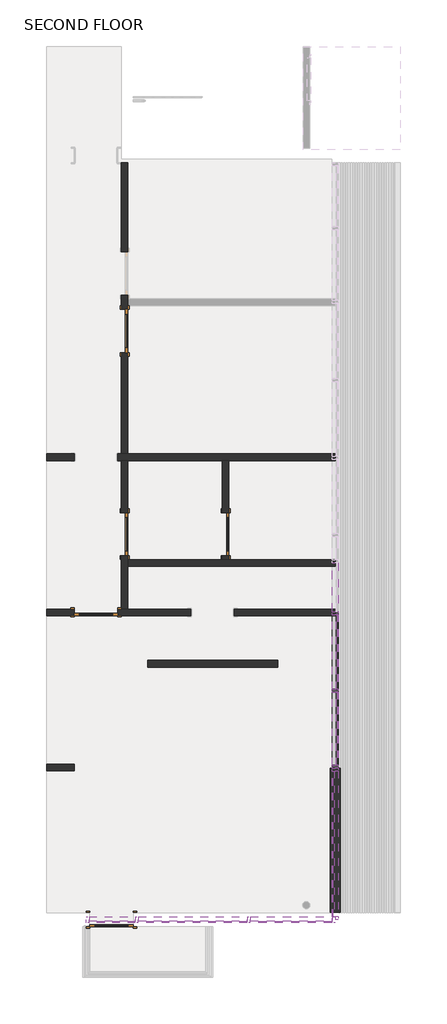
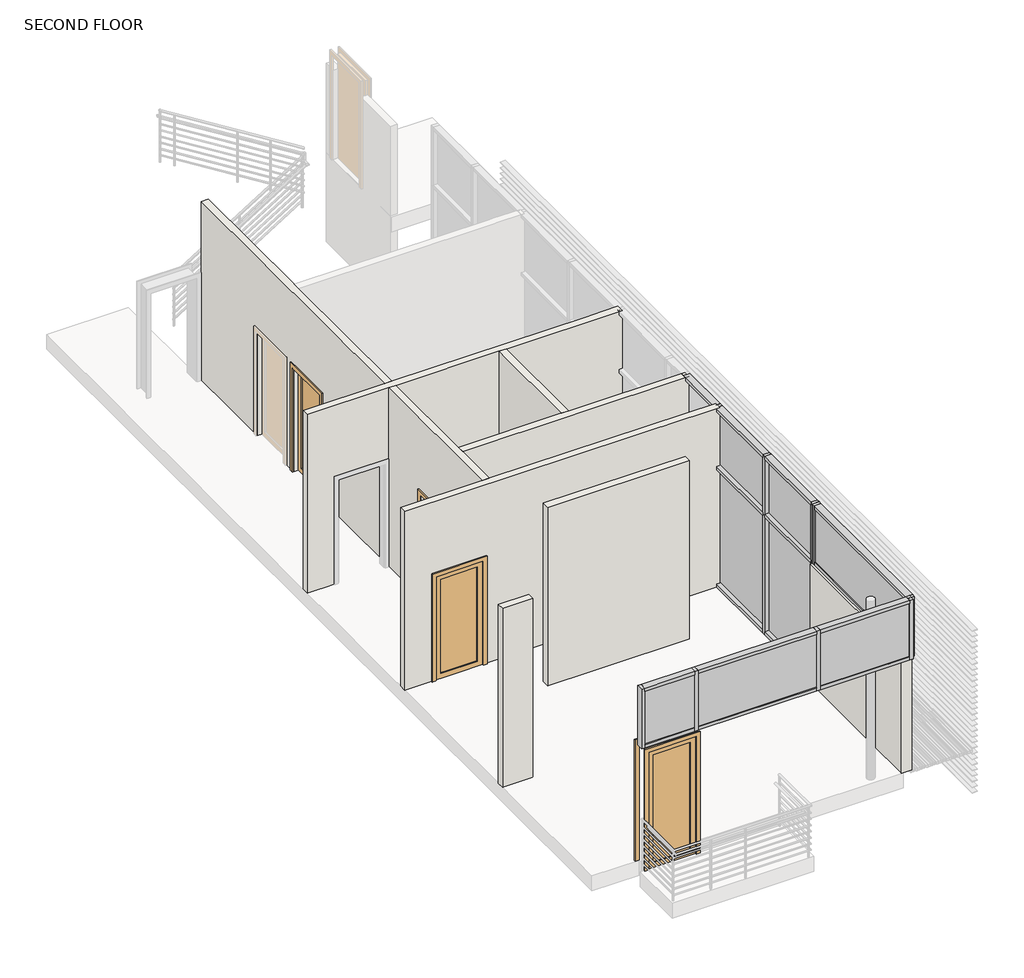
# One storey, part 1 of 2: 28 members, 9 walls, 8 plates, 5 doors.
"""IFC4 building model written with IfcOpenShell, lengths in millimetres."""

import ifcopenshell
import ifcopenshell.guid

model = None  # the IFC model being written
_history = None  # IfcOwnerHistory: only IFC2X3 demands one
_inside = {}  # id of a spatial element -> (the spatial element, [elements in it])
_under = {}  # id of a project, library or spatial element -> (it, [spatial elements below it])
_declared = {}  # id of a project -> (the project, [libraries it declares])
_typed = {}  # id of a type object -> (the type object, [elements of that type])
_made_of = {}  # id of a material, layer set ... -> (it, [elements and type objects made of it])


def new_model(schema):
    """Start an empty IFC model of exactly this schema.

    Asked for "IFC4X3", IfcOpenShell would pick the latest addendum, in which some entities
    have other attributes; the version numbers below select the first issue.
    IFC2X3 requires an IfcOwnerHistory on every rooted entity: one is made here for all.
    """
    global model, _history
    if schema == "IFC4X3":
        model = ifcopenshell.file(schema_version=(4, 3, 0, 0))
    else:
        model = ifcopenshell.file(schema=schema)
    _inside.clear()
    _under.clear()
    _declared.clear()
    _typed.clear()
    _made_of.clear()
    _history = None
    if model.schema == "IFC2X3":
        org = make("IfcOrganization", Name="unknown")
        user = make(
            "IfcPersonAndOrganization",
            ThePerson=make("IfcPerson", FamilyName="unknown"),
            TheOrganization=org,
        )
        app = make(
            "IfcApplication",
            ApplicationDeveloper=org,
            Version="unknown",
            ApplicationFullName="unknown",
            ApplicationIdentifier="unknown",
        )
        _history = make(
            "IfcOwnerHistory",
            OwningUser=user,
            OwningApplication=app,
            ChangeAction="ADDED",
            CreationDate=0,
        )
    return model


def make(cls, **values):
    """One entity of the class cls with the attributes given. An attribute that is None is left unset."""
    return model.create_entity(
        cls, **{name: value for name, value in values.items() if value is not None}
    )


def rooted(cls, **values):
    """An entity with a GlobalId (a new one), such as an element, a storey or a relation."""
    return make(cls, GlobalId=ifcopenshell.guid.new(), OwnerHistory=_history, **values)


def si_unit(unit_type, name, prefix=None):
    """IfcSIUnit, for example si_unit("LENGTHUNIT", "METRE", prefix="MILLI")."""
    return make("IfcSIUnit", UnitType=unit_type, Prefix=prefix, Name=name)


def assignment(units):
    """IfcUnitAssignment: the units of a project."""
    return None if units is None else make("IfcUnitAssignment", Units=units)


def point(xyz):
    """IfcCartesianPoint."""
    return None if xyz is None else make("IfcCartesianPoint", Coordinates=xyz)


def direction(xyz):
    """IfcDirection."""
    return None if xyz is None else make("IfcDirection", DirectionRatios=xyz)


def frame(location, z_axis=None, x_axis=None):
    """IfcAxis2Placement3D, a coordinate frame: its origin and axes. An axis left out is left unset."""
    return make(
        "IfcAxis2Placement3D",
        Location=point(location),
        Axis=direction(z_axis),
        RefDirection=direction(x_axis),
    )


def origin():
    """The frame at (0, 0, 0) with its axes left unset."""
    return frame((0.0, 0.0, 0.0))


def origin_with_axes():
    """The frame at (0, 0, 0) with the z axis (0, 0, 1) and the x axis (1, 0, 0) written out."""
    return frame((0.0, 0.0, 0.0), z_axis=(0.0, 0.0, 1.0), x_axis=(1.0, 0.0, 0.0))


def place(relative_to, where):
    """IfcLocalPlacement: puts the frame where relative to a parent placement (None: the world)."""
    return make(
        "IfcLocalPlacement", PlacementRelTo=relative_to, RelativePlacement=where
    )


def context(
    kind, dimensions, precision=None, world=None, true_north=None, identifier=None
):
    """IfcGeometricRepresentationContext, for example the 3D "Model" context."""
    return make(
        "IfcGeometricRepresentationContext",
        ContextIdentifier=identifier,
        ContextType=kind,
        CoordinateSpaceDimension=dimensions,
        Precision=precision,
        WorldCoordinateSystem=world,
        TrueNorth=true_north,
    )


def project(units=None, contexts=None):
    """IfcProject with its units and contexts."""
    return rooted(
        "IfcProject",
        Name="project",
        RepresentationContexts=contexts,
        UnitsInContext=assignment(units),
    )


def spatial(cls, under=None, at=None, **own):
    """A site, building, storey or space (cls), placed at a placement, below another one or the project."""
    s = rooted(cls, ObjectPlacement=at, **own)
    if under is not None:
        _under.setdefault(under.id(), (under, []))[1].append(s)
    return s


def polyline(points):
    """IfcPolyline through the points."""
    return make("IfcPolyline", Points=[point(p) for p in points])


def outline(outer, holes=None, kind="AREA"):
    """IfcArbitraryClosedProfileDef: a profile drawn as a closed curve; with holes, ...WithVoids."""
    if holes is None:
        return make("IfcArbitraryClosedProfileDef", ProfileType=kind, OuterCurve=outer)
    return make(
        "IfcArbitraryProfileDefWithVoids",
        ProfileType=kind,
        OuterCurve=outer,
        InnerCurves=holes,
    )


def extrude(swept, where, along, depth):
    """IfcExtrudedAreaSolid: the profile swept, set in the frame where, extruded along a direction by depth."""
    return make(
        "IfcExtrudedAreaSolid",
        SweptArea=swept,
        Position=where,
        ExtrudedDirection=direction(along),
        Depth=depth,
    )


def faces_of(points, faces, orient=None, outer=None):
    """IfcFace entities. A face is a list of loops; a loop is a list of indices into points, from 0.

    orient and outer hold one flag for each loop. By default every Orientation is true, the
    first loop of a face is its IfcFaceOuterBound and the others are IfcFaceBound.
    """
    made = []
    for i, loops in enumerate(faces):
        bounds = []
        for j, loop in enumerate(loops):
            is_outer = j == 0 if outer is None else outer[i][j]
            bounds.append(
                make(
                    "IfcFaceOuterBound" if is_outer else "IfcFaceBound",
                    Bound=make("IfcPolyLoop", Polygon=[points[k] for k in loop]),
                    Orientation=True if orient is None else orient[i][j],
                )
            )
        made.append(make("IfcFace", Bounds=bounds))
    return made


def faceted_brep(points, faces, orient=None, outer=None, voids=None):
    """IfcFacetedBrep: a solid bounded by flat faces; with voids (closed shells), ...WithVoids."""
    shared = [point(p) for p in points]
    hull = make("IfcClosedShell", CfsFaces=faces_of(shared, faces, orient, outer))
    if voids is None:
        return make("IfcFacetedBrep", Outer=hull)
    return make(
        "IfcFacetedBrepWithVoids",
        Outer=hull,
        Voids=[
            make(cls, CfsFaces=faces_of(shared, fs, o, b)) for cls, fs, o, b in voids
        ],
    )


def shape(context_of_items, identifier, shape_type, items):
    """IfcShapeRepresentation: the items that make up one representation, for example the "Body"."""
    return make(
        "IfcShapeRepresentation",
        ContextOfItems=context_of_items,
        RepresentationIdentifier=identifier,
        RepresentationType=shape_type,
        Items=items,
    )


def source(mapping_origin, context_of_items, identifier, shape_type, items):
    """IfcRepresentationMap: a shape defined once, which mapped items show again and again."""
    return make(
        "IfcRepresentationMap",
        MappingOrigin=mapping_origin,
        MappedRepresentation=shape(context_of_items, identifier, shape_type, items),
    )


def transform(
    local_origin,
    x_axis=None,
    y_axis=None,
    z_axis=None,
    scale=None,
    scale2=None,
    scale3=None,
    uniform=True,
):
    """IfcCartesianTransformationOperator3D, or its non-uniform kind. x_axis, y_axis, z_axis: its Axis1, 2, 3."""
    if uniform:
        return make(
            "IfcCartesianTransformationOperator3D",
            Axis1=direction(x_axis),
            Axis2=direction(y_axis),
            LocalOrigin=point(local_origin),
            Scale=scale,
            Axis3=direction(z_axis),
        )
    return make(
        "IfcCartesianTransformationOperator3DnonUniform",
        Axis1=direction(x_axis),
        Axis2=direction(y_axis),
        LocalOrigin=point(local_origin),
        Scale=scale,
        Axis3=direction(z_axis),
        Scale2=scale2,
        Scale3=scale3,
    )


def mapped(mapping_source, mapping_target):
    """IfcMappedItem: shows the shape of a source again, moved by a transform."""
    return make(
        "IfcMappedItem", MappingSource=mapping_source, MappingTarget=mapping_target
    )


def made_of(thing, what):
    """Note that an element or type object is made of a material, layer set ...; save() writes the relation."""
    if what is not None:
        _made_of.setdefault(what.id(), (what, []))[1].append(thing)
    return thing


def element(
    cls,
    number,
    at=None,
    inside=None,
    cuts=None,
    type_object=None,
    material=None,
    context=None,
    identifier="Body",
    shape_type=None,
    held_by="IfcProductDefinitionShape",
    body=None,
    shapes=None,
    **own,
):
    """One element of the class cls, such as IfcWall. Its Tag is "e" and its number.

    at: its placement. inside: the storey or other place that contains it. cuts: it is an
    opening in that element (IfcRelVoidsElement). A single representation is given by context,
    identifier, shape_type and body (its items); several are given by shapes. held_by: the class
    of the entity that holds the representations. save() writes the other relations.
    """
    e = rooted(cls, Tag="e%d" % number, ObjectPlacement=at, **own)
    if body is not None:
        shapes = [shape(context, identifier, shape_type, body)]
    if shapes is not None:
        e.Representation = make(held_by, Representations=shapes)
    if inside is not None:
        _inside.setdefault(inside.id(), (inside, []))[1].append(e)
    if cuts is not None:
        rooted(
            "IfcRelVoidsElement", RelatingBuildingElement=cuts, RelatedOpeningElement=e
        )
    if type_object is not None:
        _typed.setdefault(type_object.id(), (type_object, []))[1].append(e)
    return made_of(e, material)


def aggregate(whole, parts):
    """IfcRelAggregates: a whole, such as a stair, and the parts it consists of."""
    return rooted("IfcRelAggregates", RelatingObject=whole, RelatedObjects=parts)


def save(model, path):
    """Write the relations noted so far, then the file.

    IfcRelAggregates (storeys below a building ...), IfcRelContainedInSpatialStructure (elements
    in a storey), IfcRelDefinesByType, IfcRelAssociatesMaterial and IfcRelDeclares: one each for
    every whole, place, type object, material and project.
    """
    for whole, parts in _under.values():
        aggregate(whole, parts)
    for where, things in _inside.values():
        rooted(
            "IfcRelContainedInSpatialStructure",
            RelatedElements=things,
            RelatingStructure=where,
        )
    for kind, things in _typed.values():
        rooted("IfcRelDefinesByType", RelatedObjects=things, RelatingType=kind)
    for what, things in _made_of.values():
        rooted("IfcRelAssociatesMaterial", RelatedObjects=things, RelatingMaterial=what)
    for by, libraries in _declared.values():
        rooted("IfcRelDeclares", RelatingContext=by, RelatedDefinitions=libraries)
    model.write(path)


def door_e49b49a8(model_context):
    return source(origin(), model_context, "Body", "SweptSolid", [
        extrude(outline(polyline([(2133.6, 457.2), (0.0, 457.2), (0.0, 533.4), (2209.8, 533.4), (2209.8, -533.4), (0.0, -533.4), (0.0, -457.2), (2133.6, -457.2), (2133.6, 457.2)])), frame((0.0, -95.25, 0.0), z_axis=(0.0, 1.0, 0.0), x_axis=(0.0, 0.0, 1.0)), (0.0, 0.0, 1.0), 25.4),
        extrude(outline(polyline([(2133.6, 457.2), (0.0, 457.2), (0.0, 533.4), (2209.8, 533.4), (2209.8, -533.4), (0.0, -533.4), (0.0, -457.2), (2133.6, -457.2), (2133.6, 457.2)])), frame((0.0, 69.85, 0.0), z_axis=(0.0, 1.0, 0.0), x_axis=(0.0, 0.0, 1.0)), (0.0, 0.0, 1.0), 25.4),
        extrude(outline(polyline([(355.6, 41.275), (-355.6, 41.275), (-355.6, 47.625), (355.6, 47.625), (355.6, 41.275)])), frame((0.0, 0.0, 101.6), z_axis=(0.0, 0.0, 1.0), x_axis=(1.0, 0.0, 0.0)), (0.0, 0.0, 1.0), 1930.4),
        extrude(outline(polyline([(2133.6, 457.2), (2133.6, -457.2), (0.0, -457.2), (0.0, 457.2), (2133.6, 457.2)]), holes=[polyline([(2032.0, -355.6), (2032.0, 355.6), (101.6, 355.6), (101.6, -355.6), (2032.0, -355.6)])]), frame((0.0, 19.05, 0.0), z_axis=(0.0, 1.0, 0.0), x_axis=(0.0, 0.0, 1.0)), (0.0, 0.0, 1.0), 50.8),
    ])


def door_4364fc02(model_context):
    return source(origin(), model_context, "Body", "SweptSolid", [
        extrude(outline(polyline([(2133.6, 457.2), (0.0, 457.2), (0.0, 533.4), (2209.8, 533.4), (2209.8, -533.4), (0.0, -533.4), (0.0, -457.2), (2133.6, -457.2), (2133.6, 457.2)])), frame((0.0, 69.85, 0.0), z_axis=(0.0, 1.0, 0.0), x_axis=(0.0, 0.0, 1.0)), (0.0, 0.0, 1.0), 25.4),
        extrude(outline(polyline([(2133.6, 457.2), (0.0, 457.2), (0.0, 533.4), (2209.8, 533.4), (2209.8, -533.4), (0.0, -533.4), (0.0, -457.2), (2133.6, -457.2), (2133.6, 457.2)])), frame((0.0, -95.25, 0.0), z_axis=(0.0, 1.0, 0.0), x_axis=(0.0, 0.0, 1.0)), (0.0, 0.0, 1.0), 25.4),
        extrude(outline(polyline([(355.6, -41.275), (355.6, -47.625), (-355.6, -47.625), (-355.6, -41.275), (355.6, -41.275)])), frame((0.0, 0.0, 101.6), z_axis=(0.0, 0.0, 1.0), x_axis=(1.0, 0.0, 0.0)), (0.0, 0.0, 1.0), 1930.4),
        extrude(outline(polyline([(2133.6, 457.2), (2133.6, -457.2), (0.0, -457.2), (0.0, 457.2), (2133.6, 457.2)]), holes=[polyline([(2032.0, -355.6), (2032.0, 355.6), (101.6, 355.6), (101.6, -355.6), (2032.0, -355.6)])]), frame((0.0, -69.85, 0.0), z_axis=(0.0, 1.0, 0.0), x_axis=(0.0, 0.0, 1.0)), (0.0, 0.0, 1.0), 50.8),
    ])


def single_glass_1_balcony_door_3d27845b(model_context):
    return source(origin(), model_context, "Body", "SweptSolid", [
        extrude(outline(polyline([(2413.0, 457.2), (0.0, 457.2), (0.0, 533.4), (2489.2, 533.4), (2489.2, -533.4), (0.0, -533.4), (0.0, -457.2), (2413.0, -457.2), (2413.0, 457.2)])), frame((0.0, -177.8, 0.0), z_axis=(0.0, 1.0, 0.0), x_axis=(0.0, 0.0, 1.0)), (0.0, 0.0, 1.0), 25.4),
        extrude(outline(polyline([(2413.0, 457.2), (0.0, 457.2), (0.0, 533.4), (2489.2, 533.4), (2489.2, -533.4), (0.0, -533.4), (0.0, -457.2), (2413.0, -457.2), (2413.0, 457.2)])), frame((0.0, 152.4, 0.0), z_axis=(0.0, 1.0, 0.0), x_axis=(0.0, 0.0, 1.0)), (0.0, 0.0, 1.0), 25.4),
        extrude(outline(polyline([(355.6, 123.825), (-355.6, 123.825), (-355.6, 130.175), (355.6, 130.175), (355.6, 123.825)])), frame((0.0, 0.0, 101.6), z_axis=(0.0, 0.0, 1.0), x_axis=(1.0, 0.0, 0.0)), (0.0, 0.0, 1.0), 2209.8),
        extrude(outline(polyline([(2413.0, 457.2), (2413.0, -457.2), (0.0, -457.2), (0.0, 457.2), (2413.0, 457.2)]), holes=[polyline([(2311.4, -355.6), (2311.4, 355.6), (101.6, 355.6), (101.6, -355.6), (2311.4, -355.6)])]), frame((0.0, 101.6, 0.0), z_axis=(0.0, 1.0, 0.0), x_axis=(0.0, 0.0, 1.0)), (0.0, 0.0, 1.0), 50.8),
    ])


def member_7ffb4a7b(model_context):
    return source(origin(), model_context, "Body", "SweptSolid", [
        extrude(outline(polyline([(0.0, 63.5), (0.0, -63.5), (-63.5, -63.5), (-63.5, 63.5), (0.0, 63.5)])), frame((0.0, 0.0, -1543.05), z_axis=(0.0, 0.0, 1.0), x_axis=(1.0, 0.0, 0.0)), (0.0, 0.0, 1.0), 1543.05),
    ])


def member_f0fea5a5(model_context):
    return source(origin(), model_context, "Body", "SweptSolid", [
        extrude(outline(polyline([(31.75, 63.5), (31.75, -63.5), (-31.75, -63.5), (-31.75, 63.5), (31.75, 63.5)])), frame((0.0, 0.0, -2438.4), z_axis=(0.0, 0.0, 1.0), x_axis=(1.0, 0.0, 0.0)), (0.0, 0.0, 1.0), 2438.4),
    ])


def member_591cd9a7(model_context):
    return source(origin(), model_context, "Body", "SweptSolid", [
        extrude(outline(polyline([(31.75, 63.5), (31.75, -63.5), (-31.75, -63.5), (-31.75, 63.5), (31.75, 63.5)])), frame((0.0, 0.0, -1574.8), z_axis=(0.0, 0.0, 1.0), x_axis=(1.0, 0.0, 0.0)), (0.0, 0.0, 1.0), 1574.8),
    ])


def member_ec06d1cd(model_context):
    return source(origin(), model_context, "Body", "SweptSolid", [
        extrude(outline(polyline([(31.75, 63.5), (31.75, -63.5), (-31.75, -63.5), (-31.75, 63.5), (31.75, 63.5)])), frame((0.0, 0.0, -1543.05), z_axis=(0.0, 0.0, 1.0), x_axis=(1.0, 0.0, 0.0)), (0.0, 0.0, 1.0), 1543.05),
    ])


def member_6ce1ec76(model_context):
    return source(origin(), model_context, "Body", "SweptSolid", [
        extrude(outline(polyline([(0.0, 63.5), (0.0, -63.5), (-63.5, -63.5), (-63.5, 63.5), (0.0, 63.5)])), frame((0.0, 0.0, -1574.8), z_axis=(0.0, 0.0, 1.0), x_axis=(1.0, 0.0, 0.0)), (0.0, 0.0, 1.0), 1574.8),
    ])


def member_2b49869a(model_context):
    return source(origin(), model_context, "Body", "SweptSolid", [
        extrude(outline(polyline([(31.75, 63.5), (31.75, -63.5), (-31.75, -63.5), (-31.75, 63.5), (31.75, 63.5)])), frame((0.0, 0.0, -1219.2), z_axis=(0.0, 0.0, 1.0), x_axis=(1.0, 0.0, 0.0)), (0.0, 0.0, 1.0), 1219.2),
    ])


def member_ee409385(model_context):
    return source(origin(), model_context, "Body", "SweptSolid", [
        extrude(outline(polyline([(0.0, 63.5), (0.0, -63.5), (-63.5, -63.5), (-63.5, 63.5), (0.0, 63.5)])), frame((0.0, 0.0, -2438.4), z_axis=(0.0, 0.0, 1.0), x_axis=(1.0, 0.0, 0.0)), (0.0, 0.0, 1.0), 2438.4),
    ])


def member_75074519(model_context):
    return source(origin(), model_context, "Body", "SweptSolid", [
        extrude(outline(polyline([(0.0, 63.5), (0.0, -63.5), (-63.5, -63.5), (-63.5, 63.5), (0.0, 63.5)])), frame((0.0, 0.0, -1219.2), z_axis=(0.0, 0.0, 1.0), x_axis=(1.0, 0.0, 0.0)), (0.0, 0.0, 1.0), 1219.2),
    ])


def member_b5f2627a(model_context):
    return source(origin(), model_context, "Body", "SweptSolid", [
        extrude(outline(polyline([(31.75, 63.5), (31.75, -63.5), (-31.75, -63.5), (-31.75, 63.5), (31.75, 63.5)])), frame((0.0, 0.0, -1028.7), z_axis=(0.0, 0.0, 1.0), x_axis=(1.0, 0.0, 0.0)), (0.0, 0.0, 1.0), 1028.7),
    ])


def member_79ceace6(model_context):
    return source(origin(), model_context, "Body", "SweptSolid", [
        extrude(outline(polyline([(0.0, 63.5), (0.0, -63.5), (-63.5, -63.5), (-63.5, 63.5), (0.0, 63.5)])), frame((0.0, 0.0, -1028.7), z_axis=(0.0, 0.0, 1.0), x_axis=(1.0, 0.0, 0.0)), (0.0, 0.0, 1.0), 1028.7),
    ])


def member_801a2072(model_context):
    return source(origin(), model_context, "Body", "SweptSolid", [
        extrude(outline(polyline([(0.0, 63.5), (0.0, -63.5), (-63.5, -63.5), (-63.5, 63.5), (0.0, 63.5)])), frame((0.0, 0.0, -971.55), z_axis=(0.0, 0.0, 1.0), x_axis=(1.0, 0.0, 0.0)), (0.0, 0.0, 1.0), 971.55),
    ])


def member_64ee9188(model_context):
    return source(origin(), model_context, "Body", "SweptSolid", [
        extrude(outline(polyline([(0.0, 63.5), (0.0, -63.5), (-63.5, -63.5), (-63.5, 63.5), (0.0, 63.5)])), frame((0.0, 0.0, -1733.55), z_axis=(0.0, 0.0, 1.0), x_axis=(1.0, 0.0, 0.0)), (0.0, 0.0, 1.0), 1733.55),
    ])


def member_3fbb5cd5(model_context):
    return source(origin(), model_context, "Body", "SweptSolid", [
        extrude(outline(polyline([(0.0, 63.5), (0.0, -63.5), (-63.5, -63.5), (-63.5, 63.5), (0.0, 63.5)])), frame((0.0, 0.0, -2298.7), z_axis=(0.0, 0.0, 1.0), x_axis=(1.0, 0.0, 0.0)), (0.0, 0.0, 1.0), 2298.7),
    ])


def member_3783eaa0(model_context):
    return source(origin(), model_context, "Body", "SweptSolid", [
        extrude(outline(polyline([(0.0, 63.5), (0.0, -63.5), (-63.5, -63.5), (-63.5, 63.5), (0.0, 63.5)])), frame((0.0, 0.0, -3073.4), z_axis=(0.0, 0.0, 1.0), x_axis=(1.0, 0.0, 0.0)), (0.0, 0.0, 1.0), 3073.4),
    ])


def system_panel_system_panel_6c834083(model_context):
    return source(origin(), model_context, "Body", "SweptSolid", [
        extrude(outline(polyline([(787.4, 19.05), (-787.4, 19.05), (-787.4, 44.45), (787.4, 44.45), (787.4, 19.05)])), origin_with_axes(), (0.0, 0.0, 1.0), 2343.15),
    ])


def system_panel_system_panel_0ca576fe(model_context):
    return source(origin(), model_context, "Body", "SweptSolid", [
        extrude(outline(polyline([(787.4, 19.05), (-787.4, 19.05), (-787.4, 44.45), (787.4, 44.45), (787.4, 19.05)])), origin_with_axes(), (0.0, 0.0, 1.0), 1123.95),
    ])


def system_panel_system_panel_459aa32f(model_context):
    return source(origin(), model_context, "Body", "SweptSolid", [
        extrude(outline(polyline([(771.525, 19.05), (-771.525, 19.05), (-771.525, 44.45), (771.525, 44.45), (771.525, 19.05)])), origin_with_axes(), (0.0, 0.0, 1.0), 2343.15),
    ])


def system_panel_system_panel_79724349(model_context):
    return source(origin(), model_context, "Body", "SweptSolid", [
        extrude(outline(polyline([(771.525, 19.05), (-771.525, 19.05), (-771.525, 44.45), (771.525, 44.45), (771.525, 19.05)])), origin_with_axes(), (0.0, 0.0, 1.0), 1123.95),
    ])


def system_panel_system_panel_1d26f707(model_context):
    return source(origin(), model_context, "Body", "SweptSolid", [
        extrude(outline(polyline([(866.775, 19.05), (-866.775, 19.05), (-866.775, 44.45), (866.775, 44.45), (866.775, 19.05)])), origin_with_axes(), (0.0, 0.0, 1.0), 1092.2),
    ])


def system_panel_system_panel_537caf6d(model_context):
    return source(origin(), model_context, "Body", "SweptSolid", [
        extrude(outline(polyline([(485.775, 19.05), (-485.775, 19.05), (-485.775, 44.45), (485.775, 44.45), (485.775, 19.05)])), origin_with_axes(), (0.0, 0.0, 1.0), 1092.2),
    ])


def system_panel_system_panel_e7415253(model_context):
    return source(origin(), model_context, "Body", "SweptSolid", [
        extrude(outline(polyline([(1149.35, 19.05), (-1149.35, 19.05), (-1149.35, 44.45), (1149.35, 44.45), (1149.35, 19.05)])), origin_with_axes(), (0.0, 0.0, 1.0), 1092.2),
    ])


def system_panel_system_panel_6940bc57(model_context):
    return source(origin(), model_context, "Body", "SweptSolid", [
        extrude(outline(polyline([(1536.7, 19.05), (-1536.7, 19.05), (-1536.7, 44.45), (1536.7, 44.45), (1536.7, 19.05)])), origin_with_axes(), (0.0, 0.0, 1.0), 1092.2),
    ])


model = new_model("IFC4")

# Units and contexts
model_context = context("Model", 3, world=origin())
ifc_project = project(units=[si_unit("LENGTHUNIT", "METRE", prefix="MILLI")], contexts=[model_context])

# Site, building, storey
site = spatial("IfcSite", under=ifc_project)
building = spatial("IfcBuilding", under=site)
storey = spatial("IfcBuildingStorey", under=building, Name="SECOND FLOOR", Elevation=7315.2)

# Doors
placement = place(None, origin())
door_shape = door_e49b49a8(model_context)
element("IfcDoor", 1, ObjectType="Single-Glass 1 : 36\" x 84\"", at=placement, inside=storey, context=model_context, shape_type="MappedRepresentation", body=[
    mapped(door_shape, transform((-3422.2798898, -346.3689983, 7315.2), x_axis=(-1.0, 0.0, 0.0), y_axis=(0.0, -1.0, 0.0), z_axis=(0.0, 0.0, 1.0))),
])
element("IfcDoor", 2, ObjectType="Single-Glass 1 : 36\" x 84\"", at=placement, inside=storey, context=model_context, shape_type="MappedRepresentation", body=[
    mapped(door_shape, transform((-2819.1604947, 1304.6310017, 7315.2), x_axis=(0.0, -1.0, 0.0), y_axis=(1.0, 0.0, 0.0), z_axis=(0.0, 0.0, 1.0))),
])
element("IfcDoor", 3, ObjectType="Single-Glass 1 : 36\" x 84\"", at=placement, inside=storey, context=model_context, shape_type="MappedRepresentation", body=[
    mapped(door_shape, transform((-685.5604947, 1304.6310017, 7315.2), x_axis=(0.0, -1.0, 0.0), y_axis=(1.0, 0.0, 0.0), z_axis=(0.0, 0.0, 1.0))),
])
door_2_shape = door_4364fc02(model_context)
element("IfcDoor", 4, ObjectType="Single-Glass 1 : 36\" x 84\"", at=placement, inside=storey, context=model_context, shape_type="MappedRepresentation", body=[
    mapped(door_2_shape, transform((-2819.1604947, 5593.1266583, 7315.2), x_axis=(0.0, 1.0, 0.0), y_axis=(-1.0, 0.0, 0.0), z_axis=(0.0, 0.0, 1.0))),
])
single_glass_1_balcony_door_shape = single_glass_1_balcony_door_3d27845b(model_context)
element("IfcDoor", 5, ObjectType="Single-Glass 1 : Balcony Door", at=placement, inside=storey, context=model_context, shape_type="MappedRepresentation", body=[
    mapped(single_glass_1_balcony_door_shape, transform((-3095.4439612, -6836.940357, 7315.2), x_axis=(-1.0, 0.0, 0.0), y_axis=(0.0, -1.0, 0.0), z_axis=(0.0, 0.0, 1.0))),
])

# Members
member_shape = member_7ffb4a7b(model_context)
element("IfcMember", 6, ObjectType="Rectangular Mullion : 2.5\" x 5\" rectangular", at=placement, inside=storey, context=model_context, shape_type="MappedRepresentation", body=[
    mapped(member_shape, transform((1628.9560388, -3573.040357, 10972.8), x_axis=(0.0, 0.0, 1.0), y_axis=(-1.0, 0.0, 0.0), z_axis=(0.0, -1.0, 0.0))),
])
member_2_shape = member_f0fea5a5(model_context)
element("IfcMember", 7, ObjectType="Rectangular Mullion : 2.5\" x 5\" rectangular", at=placement, inside=storey, context=model_context, shape_type="MappedRepresentation", body=[
    mapped(member_2_shape, transform((1628.9560388, -359.940357, 7315.2), x_axis=(0.0, -1.0, 0.0), y_axis=(-1.0, 0.0, 0.0), z_axis=(0.0, 0.0, -1.0))),
])
element("IfcMember", 8, ObjectType="Rectangular Mullion : 2.5\" x 5\" rectangular", at=placement, inside=storey, context=model_context, shape_type="MappedRepresentation", body=[
    mapped(member_2_shape, transform((1628.9560388, -1998.240357, 7315.2), x_axis=(0.0, -1.0, 0.0), y_axis=(-1.0, 0.0, 0.0), z_axis=(0.0, 0.0, -1.0))),
])
member_3_shape = member_591cd9a7(model_context)
element("IfcMember", 9, ObjectType="Rectangular Mullion : 2.5\" x 5\" rectangular", at=placement, inside=storey, context=model_context, shape_type="MappedRepresentation", body=[
    mapped(member_3_shape, transform((1628.9560388, -1966.490357, 9753.6), x_axis=(0.0, 0.0, 1.0), y_axis=(-1.0, 0.0, 0.0), z_axis=(0.0, -1.0, 0.0))),
])
member_4_shape = member_ec06d1cd(model_context)
element("IfcMember", 10, ObjectType="Rectangular Mullion : 2.5\" x 5\" rectangular", at=placement, inside=storey, context=model_context, shape_type="MappedRepresentation", body=[
    mapped(member_4_shape, transform((1628.9560388, -3573.040357, 9753.6), x_axis=(0.0, 0.0, 1.0), y_axis=(-1.0, 0.0, 0.0), z_axis=(0.0, -1.0, 0.0))),
])
member_5_shape = member_6ce1ec76(model_context)
element("IfcMember", 11, ObjectType="Rectangular Mullion : 2.5\" x 5\" rectangular", at=placement, inside=storey, context=model_context, shape_type="MappedRepresentation", body=[
    mapped(member_5_shape, transform((1628.9560388, -1966.490357, 10972.8), x_axis=(0.0, 0.0, 1.0), y_axis=(-1.0, 0.0, 0.0), z_axis=(0.0, -1.0, 0.0))),
])
member_6_shape = member_2b49869a(model_context)
element("IfcMember", 12, ObjectType="Rectangular Mullion : 2.5\" x 5\" rectangular", at=placement, inside=storey, context=model_context, shape_type="MappedRepresentation", body=[
    mapped(member_6_shape, transform((1628.9560388, -359.940357, 9753.6), x_axis=(0.0, -1.0, 0.0), y_axis=(-1.0, 0.0, 0.0), z_axis=(0.0, 0.0, -1.0))),
])
element("IfcMember", 13, ObjectType="Rectangular Mullion : 2.5\" x 5\" rectangular", at=placement, inside=storey, context=model_context, shape_type="MappedRepresentation", body=[
    mapped(member_6_shape, transform((1628.9560388, -1998.240357, 9753.6), x_axis=(0.0, -1.0, 0.0), y_axis=(-1.0, 0.0, 0.0), z_axis=(0.0, 0.0, -1.0))),
])
member_7_shape = member_ee409385(model_context)
element("IfcMember", 14, ObjectType="Rectangular Mullion : 2.5\" x 5\" rectangular", at=placement, inside=storey, context=model_context, shape_type="MappedRepresentation", body=[
    mapped(member_7_shape, transform((1628.9560388, -3636.540357, 7315.2), x_axis=(0.0, -1.0, 0.0), y_axis=(-1.0, 0.0, 0.0), z_axis=(0.0, 0.0, -1.0))),
])
member_8_shape = member_75074519(model_context)
element("IfcMember", 15, ObjectType="Rectangular Mullion : 2.5\" x 5\" rectangular", at=placement, inside=storey, context=model_context, shape_type="MappedRepresentation", body=[
    mapped(member_8_shape, transform((1628.9560388, -3636.540357, 9753.6), x_axis=(0.0, -1.0, 0.0), y_axis=(-1.0, 0.0, 0.0), z_axis=(0.0, 0.0, -1.0))),
])
member_9_shape = member_b5f2627a(model_context)
element("IfcMember", 16, ObjectType="Rectangular Mullion : 2.5\" x 5\" rectangular", at=placement, inside=storey, context=model_context, shape_type="MappedRepresentation", body=[
    mapped(member_9_shape, transform((1628.9560388, -328.190357, 9753.6), x_axis=(0.0, 0.0, 1.0), y_axis=(-1.0, 0.0, 0.0), z_axis=(0.0, -1.0, 0.0))),
])
member_10_shape = member_79ceace6(model_context)
element("IfcMember", 17, ObjectType="Rectangular Mullion : 2.5\" x 5\" rectangular", at=placement, inside=storey, context=model_context, shape_type="MappedRepresentation", body=[
    mapped(member_10_shape, transform((1628.9560388, -328.190357, 10972.8), x_axis=(0.0, 0.0, 1.0), y_axis=(-1.0, 0.0, 0.0), z_axis=(0.0, -1.0, 0.0))),
])
member_11_shape = member_801a2072(model_context)
element("IfcMember", 18, ObjectType="Rectangular Mullion : 2.5\" x 5\" rectangular", at=placement, inside=storey, context=model_context, shape_type="MappedRepresentation", body=[
    mapped(member_11_shape, transform((-3565.3439612, -6836.940357, 10972.8), x_axis=(0.0, 0.0, 1.0), y_axis=(0.0, 1.0, 0.0), z_axis=(-1.0, 0.0, 0.0))),
])
member_12_shape = member_64ee9188(model_context)
element("IfcMember", 19, ObjectType="Rectangular Mullion : 2.5\" x 5\" rectangular", at=placement, inside=storey, context=model_context, shape_type="MappedRepresentation", body=[
    mapped(member_12_shape, transform((-168.0939612, -6836.940357, 10972.8), x_axis=(0.0, 0.0, 1.0), y_axis=(0.0, 1.0, 0.0), z_axis=(-0.9999999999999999, 0.0, 0.0))),
])
element("IfcMember", 20, ObjectType="Rectangular Mullion : 2.5\" x 5\" rectangular", at=placement, inside=storey, context=model_context, shape_type="MappedRepresentation", body=[
    mapped(member_6_shape, transform((-2562.0439612, -6836.940357, 9753.6), x_axis=(-1.0, 0.0, 0.0), y_axis=(0.0, 1.0, 0.0), z_axis=(0.0, 0.0, -1.0))),
])
element("IfcMember", 21, ObjectType="Rectangular Mullion : 2.5\" x 5\" rectangular", at=placement, inside=storey, context=model_context, shape_type="MappedRepresentation", body=[
    mapped(member_6_shape, transform((-199.8439612, -6836.940357, 9753.6), x_axis=(-1.0, 0.0, 0.0), y_axis=(0.0, 1.0, 0.0), z_axis=(0.0, 0.0, -1.0))),
])
member_13_shape = member_3fbb5cd5(model_context)
element("IfcMember", 22, ObjectType="Rectangular Mullion : 2.5\" x 5\" rectangular", at=placement, inside=storey, context=model_context, shape_type="MappedRepresentation", body=[
    mapped(member_13_shape, transform((-2530.2939612, -6836.940357, 10972.8), x_axis=(0.0, 0.0, 1.0), y_axis=(0.0, 1.0, 0.0), z_axis=(-1.0, 0.0, 0.0))),
])
element("IfcMember", 23, ObjectType="Rectangular Mullion : 2.5\" x 5\" rectangular", at=placement, inside=storey, context=model_context, shape_type="MappedRepresentation", body=[
    mapped(member_8_shape, transform((-3628.8439612, -6836.940357, 9753.6), x_axis=(-1.0, 0.0, 0.0), y_axis=(0.0, 1.0, 0.0), z_axis=(0.0, 0.0, -1.0))),
])
element("IfcMember", 24, ObjectType="Rectangular Mullion : 2.5\" x 5\" rectangular", at=placement, inside=storey, context=model_context, shape_type="MappedRepresentation", body=[
    mapped(member_8_shape, transform((1628.9560388, -3636.540357, 9753.6), x_axis=(0.0, 1.0, 0.0), y_axis=(1.0, 0.0, 0.0), z_axis=(0.0, 0.0, -1.0))),
])
member_14_shape = member_3783eaa0(model_context)
element("IfcMember", 25, ObjectType="Rectangular Mullion : 2.5\" x 5\" rectangular", at=placement, inside=storey, context=model_context, shape_type="MappedRepresentation", body=[
    mapped(member_14_shape, transform((1628.9560388, -3700.040357, 10972.8), x_axis=(0.0, 0.0, 1.0), y_axis=(1.0, 0.0, 0.0), z_axis=(0.0, 1.0, 0.0))),
])
element("IfcMember", 26, ObjectType="Rectangular Mullion : 2.5\" x 5\" rectangular", at=placement, inside=storey, context=model_context, shape_type="MappedRepresentation", body=[
    mapped(member_5_shape, transform((1628.9560388, -391.690357, 7315.2), x_axis=(0.0, 0.0, -1.0), y_axis=(-1.0, 0.0, 0.0), z_axis=(0.0, 1.0, 0.0))),
])
element("IfcMember", 27, ObjectType="Rectangular Mullion : 2.5\" x 5\" rectangular", at=placement, inside=storey, context=model_context, shape_type="MappedRepresentation", body=[
    mapped(member_shape, transform((1628.9560388, -2029.990357, 7315.2), x_axis=(0.0, 0.0, -1.0), y_axis=(-1.0, 0.0, 0.0), z_axis=(0.0, 1.0, 0.0))),
])
element("IfcMember", 28, ObjectType="Rectangular Mullion : 2.5\" x 5\" rectangular", at=placement, inside=storey, context=model_context, shape_type="MappedRepresentation", body=[
    mapped(member_14_shape, transform((1628.9560388, -6773.440357, 9753.6), x_axis=(0.0, 0.0, -1.0), y_axis=(1.0, 0.0, 0.0), z_axis=(0.0, -1.0, 0.0))),
])
element("IfcMember", 29, ObjectType="Rectangular Mullion : 2.5\" x 5\" rectangular", at=placement, inside=storey, context=model_context, shape_type="MappedRepresentation", body=[
    mapped(member_12_shape, transform((1565.4560388, -6836.940357, 9753.6), x_axis=(0.0, 0.0, -1.0), y_axis=(0.0, 1.0, 0.0), z_axis=(1.0, 0.0, 0.0))),
])
element("IfcMember", 30, ObjectType="Rectangular Mullion : 2.5\" x 5\" rectangular", at=placement, inside=storey, context=model_context, shape_type="MappedRepresentation", body=[
    mapped(member_11_shape, transform((-2593.7939612, -6836.940357, 9753.6), x_axis=(0.0, 0.0, -1.0), y_axis=(0.0, 1.0, 0.0), z_axis=(1.0, 0.0, 0.0))),
])
element("IfcMember", 31, ObjectType="Rectangular Mullion : 2.5\" x 5\" rectangular", at=placement, inside=storey, context=model_context, shape_type="MappedRepresentation", body=[
    mapped(member_13_shape, transform((-231.5939612, -6836.940357, 9753.6), x_axis=(0.0, 0.0, -1.0), y_axis=(0.0, 1.0, 0.0), z_axis=(1.0, 0.0, 0.0))),
])
element("IfcMember", 32, ObjectType="Rectangular Mullion : 2.5\" x 5\" rectangular", at=placement, inside=storey, context=model_context, shape_type="MappedRepresentation", body=[
    mapped(member_8_shape, transform((1628.9560388, -6836.940357, 10972.8), x_axis=(1.0, 0.0, 0.0), y_axis=(0.0, 1.0, 0.0), z_axis=(0.0, 0.0, 1.0))),
])
element("IfcMember", 33, ObjectType="Rectangular Mullion : 2.5\" x 5\" rectangular", at=placement, inside=storey, context=model_context, shape_type="MappedRepresentation", body=[
    mapped(member_8_shape, transform((1628.9560388, -6836.940357, 10972.8), x_axis=(0.0, -1.0, 0.0), y_axis=(1.0, 0.0, 0.0), z_axis=(0.0, 0.0, 1.0))),
])

# Plates
system_panel_system_panel_shape = system_panel_system_panel_6c834083(model_context)
element("IfcPlate", 34, ObjectType="System Panel : System Panel", at=placement, inside=storey, context=model_context, shape_type="MappedRepresentation", body=[
    mapped(system_panel_system_panel_shape, transform((1628.9560388, -1179.090357, 7378.7), x_axis=(0.0, -1.0, 0.0), y_axis=(1.0, 0.0, 0.0), z_axis=(0.0, 0.0, 1.0))),
])
system_panel_system_panel_2_shape = system_panel_system_panel_0ca576fe(model_context)
element("IfcPlate", 35, ObjectType="System Panel : System Panel", at=placement, inside=storey, context=model_context, shape_type="MappedRepresentation", body=[
    mapped(system_panel_system_panel_2_shape, transform((1628.9560388, -1179.090357, 9785.35), x_axis=(0.0, -1.0, 0.0), y_axis=(1.0, 0.0, 0.0), z_axis=(0.0, 0.0, 1.0))),
])
system_panel_system_panel_3_shape = system_panel_system_panel_459aa32f(model_context)
element("IfcPlate", 36, ObjectType="System Panel : System Panel", at=placement, inside=storey, context=model_context, shape_type="MappedRepresentation", body=[
    mapped(system_panel_system_panel_3_shape, transform((1628.9560388, -2801.515357, 7378.7), x_axis=(0.0, -1.0, 0.0), y_axis=(1.0, 0.0, 0.0), z_axis=(0.0, 0.0, 1.0))),
])
system_panel_system_panel_4_shape = system_panel_system_panel_79724349(model_context)
element("IfcPlate", 37, ObjectType="System Panel : System Panel", at=placement, inside=storey, context=model_context, shape_type="MappedRepresentation", body=[
    mapped(system_panel_system_panel_4_shape, transform((1628.9560388, -2801.515357, 9785.35), x_axis=(0.0, -1.0, 0.0), y_axis=(1.0, 0.0, 0.0), z_axis=(0.0, 0.0, 1.0))),
])
system_panel_system_panel_5_shape = system_panel_system_panel_1d26f707(model_context)
element("IfcPlate", 38, ObjectType="System Panel : System Panel", at=placement, inside=storey, context=model_context, shape_type="MappedRepresentation", body=[
    mapped(system_panel_system_panel_5_shape, transform((698.6810388, -6836.940357, 9817.1), x_axis=(-1.0, 0.0, 0.0), y_axis=(0.0, -1.0, 0.0), z_axis=(0.0, 0.0, 1.0))),
])
system_panel_system_panel_6_shape = system_panel_system_panel_537caf6d(model_context)
element("IfcPlate", 39, ObjectType="System Panel : System Panel", at=placement, inside=storey, context=model_context, shape_type="MappedRepresentation", body=[
    mapped(system_panel_system_panel_6_shape, transform((-3079.5689612, -6836.940357, 9817.1), x_axis=(-1.0, 0.0, 0.0), y_axis=(0.0, -1.0, 0.0), z_axis=(0.0, 0.0, 1.0))),
])
system_panel_system_panel_7_shape = system_panel_system_panel_e7415253(model_context)
element("IfcPlate", 40, ObjectType="System Panel : System Panel", at=placement, inside=storey, context=model_context, shape_type="MappedRepresentation", body=[
    mapped(system_panel_system_panel_7_shape, transform((-1380.9439612, -6836.940357, 9817.1), x_axis=(-1.0, 0.0, 0.0), y_axis=(0.0, -1.0, 0.0), z_axis=(0.0, 0.0, 1.0))),
])
system_panel_system_panel_8_shape = system_panel_system_panel_6940bc57(model_context)
element("IfcPlate", 41, ObjectType="System Panel : System Panel", at=placement, inside=storey, context=model_context, shape_type="MappedRepresentation", body=[
    mapped(system_panel_system_panel_8_shape, transform((1628.9560388, -5236.740357, 9817.1), x_axis=(0.0, 1.0, 0.0), y_axis=(-1.0, 0.0, 0.0), z_axis=(0.0, 0.0, 1.0))),
])

# Walls
element("IfcWall", 42, ObjectType="Generic - 8\"", at=placement, inside=storey, context=model_context, shape_type="SweptSolid", body=[
    extrude(outline(polyline([(1527.3560388, -6684.540357), (1527.3560388, -3636.540357), (1730.5560388, -3636.540357), (1730.5560388, -6684.540357), (1527.3560388, -6684.540357)])), frame((0.0, 0.0, 7315.2), z_axis=(0.0, 0.0, 1.0), x_axis=(1.0, 0.0, 0.0)), (0.0, 0.0, 1.0), 2438.4),
])
element("IfcWall", 43, ObjectType="Interior - 5 1/2\" Partition (1-hr)", at=placement, inside=storey, context=model_context, shape_type="Brep", body=[
    faceted_brep([(-2749.3104947, 9152.359643, 10972.8), (-2749.3104947, 6272.5766583, 10972.8), (-2749.3104947, 6132.8766583, 10972.8), (-2749.3104947, 3000.0810017, 10972.8), (-2749.3104947, 3000.0810017, 7315.2), (-2749.3104947, 5135.9266583, 7315.2), (-2749.3104947, 5135.9266583, 9448.8), (-2749.3104947, 6050.3266583, 9448.8), (-2749.3104947, 6050.3266583, 7315.2), (-2749.3104947, 6132.8766583, 7315.2), (-2749.3104947, 6272.5766583, 7315.2), (-2749.3104947, 6355.1266583, 7315.2), (-2749.3104947, 6355.1266583, 9448.8), (-2749.3104947, 7269.5266583, 9448.8), (-2749.3104947, 7269.5266583, 7315.2), (-2749.3104947, 9152.359643, 7315.2), (-2889.0104947, 3000.0810017, 10972.8), (-2889.0104947, 9152.359643, 10972.8), (-2889.0104947, 9152.359643, 7315.2), (-2889.0104947, 7269.5266583, 7315.2), (-2889.0104947, 7269.5266583, 9448.8), (-2889.0104947, 6355.1266583, 9448.8), (-2889.0104947, 6355.1266583, 7315.2), (-2889.0104947, 6050.3266583, 7315.2), (-2889.0104947, 6050.3266583, 9448.8), (-2889.0104947, 5135.9266583, 9448.8), (-2889.0104947, 5135.9266583, 7315.2), (-2889.0104947, 3000.0810017, 7315.2)], [[[0, 1, 2, 3, 4, 5, 6, 7, 8, 9, 10, 11, 12, 13, 14, 15]], [[16, 17, 18, 19, 20, 21, 22, 23, 24, 25, 26, 27]], [[4, 27, 26, 5]], [[18, 15, 14, 19]], [[22, 11, 10, 9, 8, 23]], [[3, 2, 1, 0, 17, 16]], [[4, 3, 16, 27]], [[0, 15, 18, 17]], [[21, 12, 11, 22]], [[20, 13, 12, 21]], [[13, 20, 19, 14]], [[7, 24, 23, 8]], [[6, 25, 24, 7]], [[25, 6, 5, 26]]]),
])
element("IfcWall", 44, ObjectType="Interior - 5 1/2\" Partition (1-hr)", at=placement, inside=storey, context=model_context, shape_type="Brep", body=[
    faceted_brep([(1628.9560388, -416.2189983, 7315.2), (1628.9560388, -416.2189983, 10972.8), (1102.5348444, -416.2189983, 10972.8), (1037.7772332, -416.2189983, 10972.8), (-4467.0439612, -416.2189983, 10972.8), (-4467.0439612, -416.2189983, 7315.2), (-3879.4798898, -416.2189983, 7315.2), (-3879.4798898, -416.2189983, 9448.8), (-2965.0798898, -416.2189983, 9448.8), (-2965.0798898, -416.2189983, 7315.2), (-1419.0439612, -416.2189983, 7315.2), (-1419.0439612, -416.2189983, 9448.8), (-504.6439612, -416.2189983, 9448.8), (-504.6439612, -416.2189983, 7315.2), (1628.9560388, -276.5189983, 10972.8), (1628.9560388, -276.5189983, 7315.2), (-504.6439612, -276.5189983, 7315.2), (-504.6439612, -276.5189983, 9448.8), (-1419.0439612, -276.5189983, 9448.8), (-1419.0439612, -276.5189983, 7315.2), (-2749.3104947, -276.5189983, 7315.2), (-2889.0104947, -276.5189983, 7315.2), (-2965.0798898, -276.5189983, 7315.2), (-2965.0798898, -276.5189983, 9448.8), (-3879.4798898, -276.5189983, 9448.8), (-3879.4798898, -276.5189983, 7315.2), (-4467.0439612, -276.5189983, 7315.2), (-4467.0439612, -276.5189983, 10972.8), (-2889.0104947, -276.5189983, 10972.8), (-2749.3104947, -276.5189983, 10972.8), (1041.7847608, -276.5189983, 10972.8), (1098.5273168, -276.5189983, 10972.8)], [[[0, 1, 2, 3, 4, 5, 6, 7, 8, 9, 10, 11, 12, 13]], [[14, 15, 16, 17, 18, 19, 20, 21, 22, 23, 24, 25, 26, 27, 28, 29, 30, 31]], [[15, 0, 13, 16]], [[5, 26, 25, 6]], [[9, 22, 21, 20, 19, 10]], [[1, 0, 15, 14]], [[4, 3, 2, 1, 14, 31, 30, 29, 28, 27]], [[26, 5, 4, 27]], [[24, 7, 6, 25]], [[23, 8, 7, 24]], [[8, 23, 22, 9]], [[12, 17, 16, 13]], [[18, 11, 10, 19]], [[17, 12, 11, 18]]]),
])
element("IfcWall", 45, ObjectType="Interior - 5 1/2\" Partition (1-hr)", at=placement, inside=storey, context=model_context, shape_type="SweptSolid", body=[
    extrude(outline(polyline([(413.1270124, -1502.091531), (-2330.0729876, -1502.091531), (-2330.0729876, -1362.391531), (413.1270124, -1362.391531), (413.1270124, -1502.091531)])), frame((0.0, 0.0, 7315.2), z_axis=(0.0, 0.0, 1.0), x_axis=(1.0, 0.0, 0.0)), (0.0, 0.0, 1.0), 3657.6),
])
element("IfcWall", 46, ObjectType="Interior - 5 1/2\" Partition (1-hr)", at=placement, inside=storey, context=model_context, shape_type="Brep", body=[
    faceted_brep([(1628.9560388, 2860.3810017, 7315.2), (1628.9560388, 2860.3810017, 10972.8), (-615.7104947, 2860.3810017, 10972.8), (-755.4104947, 2860.3810017, 10972.8), (-2749.3104947, 2860.3810017, 10972.8), (-2889.0104947, 2860.3810017, 10972.8), (-4467.0439612, 2860.3810017, 10972.8), (-4467.0439612, 2860.3810017, 7315.2), (-3879.4798898, 2860.3810017, 7315.2), (-3879.4798898, 2860.3810017, 9448.8), (-2965.0798898, 2860.3810017, 9448.8), (-2965.0798898, 2860.3810017, 7315.2), (-2889.0104947, 2860.3810017, 7315.2), (-2749.3104947, 2860.3810017, 7315.2), (-755.4104947, 2860.3810017, 7315.2), (-615.7104947, 2860.3810017, 7315.2), (1628.9560388, 3000.0810017, 10972.8), (1628.9560388, 3000.0810017, 7315.2), (-2749.3104947, 3000.0810017, 7315.2), (-2889.0104947, 3000.0810017, 7315.2), (-2965.0798898, 3000.0810017, 7315.2), (-2965.0798898, 3000.0810017, 9448.8), (-3879.4798898, 3000.0810017, 9448.8), (-3879.4798898, 3000.0810017, 7315.2), (-4467.0439612, 3000.0810017, 7315.2), (-4467.0439612, 3000.0810017, 10972.8), (-2889.0104947, 3000.0810017, 10972.8), (-2749.3104947, 3000.0810017, 10972.8), (1014.1514793, 3000.0810017, 10972.8), (1126.1605983, 3000.0810017, 10972.8)], [[[0, 1, 2, 3, 4, 5, 6, 7, 8, 9, 10, 11, 12, 13, 14, 15]], [[16, 17, 18, 19, 20, 21, 22, 23, 24, 25, 26, 27, 28, 29]], [[17, 0, 15, 14, 13, 12, 11, 20, 19, 18]], [[7, 24, 23, 8]], [[1, 0, 17, 16]], [[6, 5, 4, 3, 2, 1, 16, 29, 28, 27, 26, 25]], [[24, 7, 6, 25]], [[10, 21, 20, 11]], [[22, 9, 8, 23]], [[21, 10, 9, 22]]]),
])
element("IfcWall", 47, ObjectType="Interior - 5 1/2\" Partition (1-hr)", at=placement, inside=storey, context=model_context, shape_type="Brep", body=[
    faceted_brep([(-2889.0104947, -276.5189983, 10972.8), (-2889.0104947, 2860.3810017, 10972.8), (-2889.0104947, 2860.3810017, 7315.2), (-2889.0104947, 1761.8310017, 7315.2), (-2889.0104947, 1761.8310017, 9448.8), (-2889.0104947, 847.4310017, 9448.8), (-2889.0104947, 847.4310017, 7315.2), (-2889.0104947, -276.5189983, 7315.2), (-2749.3104947, 2860.3810017, 10972.8), (-2749.3104947, 764.8810017, 10972.8), (-2749.3104947, 625.1810017, 10972.8), (-2749.3104947, -276.5189983, 10972.8), (-2749.3104947, -276.5189983, 7315.2), (-2749.3104947, 625.1810017, 7315.2), (-2749.3104947, 764.8810017, 7315.2), (-2749.3104947, 847.4310017, 7315.2), (-2749.3104947, 847.4310017, 9448.8), (-2749.3104947, 1761.8310017, 9448.8), (-2749.3104947, 1761.8310017, 7315.2), (-2749.3104947, 2860.3810017, 7315.2)], [[[0, 1, 2, 3, 4, 5, 6, 7]], [[8, 9, 10, 11, 12, 13, 14, 15, 16, 17, 18, 19]], [[2, 19, 18, 3]], [[12, 7, 6, 15, 14, 13]], [[1, 0, 11, 10, 9, 8]], [[2, 1, 8, 19]], [[0, 7, 12, 11]], [[5, 16, 15, 6]], [[4, 17, 16, 5]], [[17, 4, 3, 18]]]),
])
element("IfcWall", 48, ObjectType="Interior - 5 1/2\" Partition (1-hr)", at=placement, inside=storey, context=model_context, shape_type="SweptSolid", body=[
    extrude(outline(polyline([(-4467.0439612, -3553.1189983), (-3879.4798898, -3553.1189983), (-3879.4798898, -3692.8189983), (-4467.0439612, -3692.8189983), (-4467.0439612, -3553.1189983)])), frame((0.0, 0.0, 7315.2), z_axis=(0.0, 0.0, 1.0), x_axis=(1.0, 0.0, 0.0)), (0.0, 0.0, 1.0), 3657.6),
])
element("IfcWall", 49, ObjectType="Interior - 5 1/2\" Partition (1-hr)", at=placement, inside=storey, context=model_context, shape_type="Brep", body=[
    faceted_brep([(-2749.3104947, 625.1810017, 7315.2), (1628.9560388, 625.1810017, 7315.2), (1628.9560388, 625.1810017, 10972.8), (-2749.3104947, 625.1810017, 10972.8), (-2749.3104947, 764.8810017, 7315.2), (-2749.3104947, 764.8810017, 10972.8), (-755.4104947, 764.8810017, 10972.8), (-615.7104947, 764.8810017, 10972.8), (1628.9560388, 764.8810017, 10972.8), (1628.9560388, 764.8810017, 7315.2), (-615.7104947, 764.8810017, 7315.2), (-755.4104947, 764.8810017, 7315.2)], [[[0, 1, 2, 3]], [[4, 5, 6, 7, 8, 9, 10, 11]], [[1, 0, 4, 11, 10, 9]], [[2, 1, 9, 8]], [[3, 2, 8, 7, 6, 5]], [[0, 3, 5, 4]]]),
])
element("IfcWall", 50, ObjectType="Interior - 5 1/2\" Partition (1-hr)", at=placement, inside=storey, context=model_context, shape_type="SweptSolid", body=[
    extrude(outline(polyline([(764.8810017, 10972.8), (2860.3810017, 10972.8), (2860.3810017, 7315.2), (1761.8310017, 7315.2), (1761.8310017, 9448.8), (847.4310017, 9448.8), (847.4310017, 7315.2), (764.8810017, 7315.2), (764.8810017, 10972.8)])), frame((-755.4104947, 0.0, 0.0), z_axis=(1.0, 0.0, 0.0), x_axis=(0.0, 1.0, 0.0)), (0.0, 0.0, 1.0), 139.7),
])

save(model, "model.ifc")
